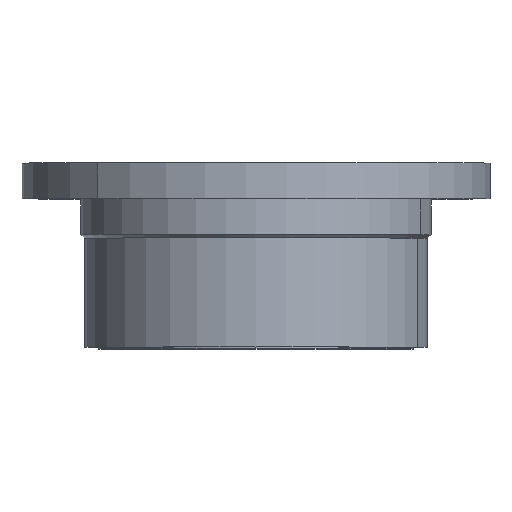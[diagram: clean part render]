
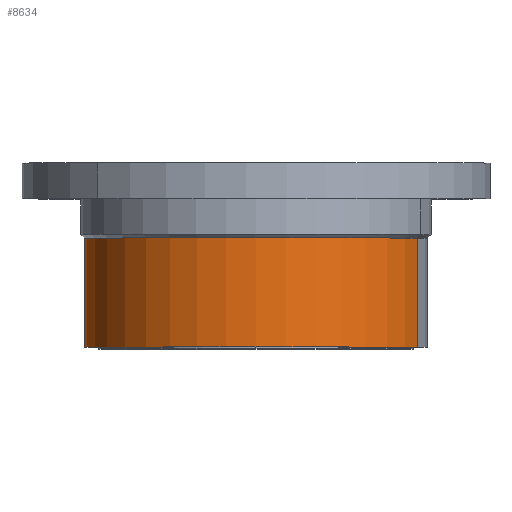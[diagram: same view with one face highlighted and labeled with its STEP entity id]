
A CAD part, top view. The second image highlights one B-rep face of the part: STEP entity #8634.
In plain terms, the highlighted cylindrical face has radius 48 mm (diameter 96 mm), a partial arc.
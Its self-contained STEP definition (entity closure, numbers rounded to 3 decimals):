
#117 = CARTESIAN_POINT ( 'NONE',  ( 45.105, -12., 16.417 ) ) ;
#444 = VECTOR ( 'NONE', #1167, 1000. ) ;
#897 = CARTESIAN_POINT ( 'NONE',  ( 45.105, -42.5, 16.417 ) ) ;
#951 = AXIS2_PLACEMENT_3D ( 'NONE', #3950, #7534, #8277 ) ;
#1167 = DIRECTION ( 'NONE',  ( 0., -1., 0. ) ) ;
#1299 = DIRECTION ( 'NONE',  ( 0., -1., 0. ) ) ;
#1782 = VERTEX_POINT ( 'NONE', #3525 ) ;
#1994 = CARTESIAN_POINT ( 'NONE',  ( 0., -42.5, 0. ) ) ;
#2427 = AXIS2_PLACEMENT_3D ( 'NONE', #7670, #1299, #4782 ) ;
#2560 = LINE ( 'NONE', #7539, #444 ) ;
#3347 = FACE_OUTER_BOUND ( 'NONE', #7542, .T. ) ;
#3525 = CARTESIAN_POINT ( 'NONE',  ( -45.105, -12., -16.417 ) ) ;
#3673 = VECTOR ( 'NONE', #3710, 1000. ) ;
#3710 = DIRECTION ( 'NONE',  ( 0., -1., 0. ) ) ;
#3789 = VERTEX_POINT ( 'NONE', #117 ) ;
#3908 = VERTEX_POINT ( 'NONE', #4614 ) ;
#3950 = CARTESIAN_POINT ( 'NONE',  ( 0., -12., 0. ) ) ;
#4034 = ORIENTED_EDGE ( 'NONE', *, *, #4161, .F. ) ;
#4086 = DIRECTION ( 'NONE',  ( 0.94, 0., 0.342 ) ) ;
#4161 = EDGE_CURVE ( 'NONE', #3789, #6640, #2560, .T. ) ;
#4297 = EDGE_CURVE ( 'NONE', #6640, #3908, #4899, .T. ) ;
#4614 = CARTESIAN_POINT ( 'NONE',  ( -45.105, -42.5, -16.417 ) ) ;
#4782 = DIRECTION ( 'NONE',  ( 0.94, 0., 0.342 ) ) ;
#4899 = CIRCLE ( 'NONE', #6083, 48. ) ;
#4953 = CIRCLE ( 'NONE', #951, 48. ) ;
#5046 = EDGE_CURVE ( 'NONE', #1782, #3908, #5802, .T. ) ;
#5802 = LINE ( 'NONE', #7946, #3673 ) ;
#6078 = ORIENTED_EDGE ( 'NONE', *, *, #8697, .T. ) ;
#6083 = AXIS2_PLACEMENT_3D ( 'NONE', #1994, #6278, #4086 ) ;
#6136 = CYLINDRICAL_SURFACE ( 'NONE', #2427, 48. ) ;
#6278 = DIRECTION ( 'NONE',  ( 0., -1., 0. ) ) ;
#6640 = VERTEX_POINT ( 'NONE', #897 ) ;
#7534 = DIRECTION ( 'NONE',  ( 0., -1., 0. ) ) ;
#7539 = CARTESIAN_POINT ( 'NONE',  ( 45.105, -39.13, 16.417 ) ) ;
#7542 = EDGE_LOOP ( 'NONE', ( #6078, #7576, #8615, #4034 ) ) ;
#7576 = ORIENTED_EDGE ( 'NONE', *, *, #5046, .T. ) ;
#7670 = CARTESIAN_POINT ( 'NONE',  ( 0., -39.13, 0. ) ) ;
#7946 = CARTESIAN_POINT ( 'NONE',  ( -45.105, -39.13, -16.417 ) ) ;
#8277 = DIRECTION ( 'NONE',  ( -0.94, 0., -0.342 ) ) ;
#8615 = ORIENTED_EDGE ( 'NONE', *, *, #4297, .F. ) ;
#8634 = ADVANCED_FACE ( 'NONE', ( #3347 ), #6136, .T. ) ;
#8697 = EDGE_CURVE ( 'NONE', #3789, #1782, #4953, .T. ) ;
